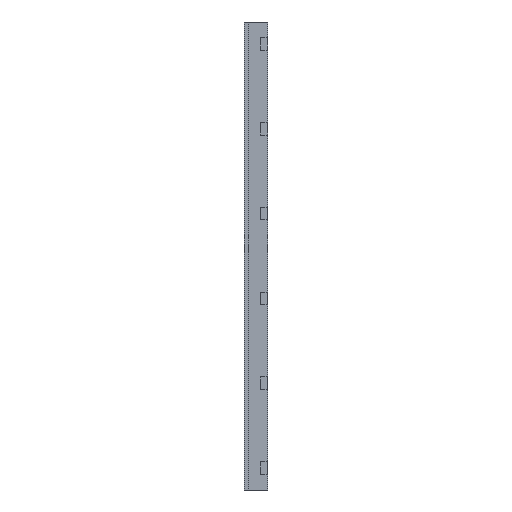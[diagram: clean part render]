
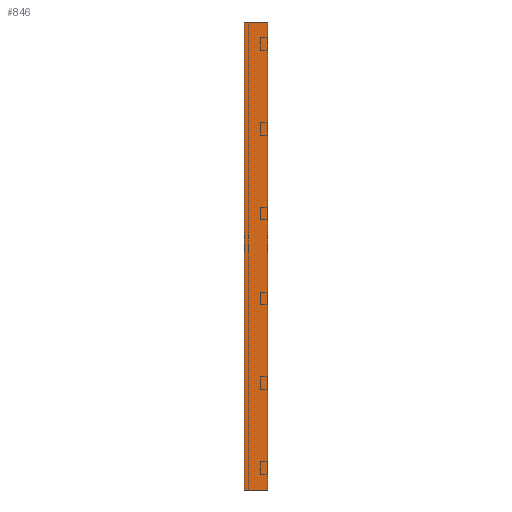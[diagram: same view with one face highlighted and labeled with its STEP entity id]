
A CAD part, left-side view. The second image highlights one B-rep face of the part: STEP entity #846.
In plain terms, the highlighted planar face has unit normal (-1, 0, 0).
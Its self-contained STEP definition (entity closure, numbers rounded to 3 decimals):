
#39 = ORIENTED_EDGE ( 'NONE', *, *, #810, .F. ) ;
#48 = EDGE_CURVE ( 'NONE', #146, #551, #490, .T. ) ;
#80 = EDGE_CURVE ( 'NONE', #1006, #1417, #756, .T. ) ;
#102 = FACE_OUTER_BOUND ( 'NONE', #987, .T. ) ;
#146 = VERTEX_POINT ( 'NONE', #814 ) ;
#165 = CARTESIAN_POINT ( 'NONE',  ( 0., 75., -1500. ) ) ;
#247 = DIRECTION ( 'NONE',  ( 0., -1., 0. ) ) ;
#257 = CARTESIAN_POINT ( 'NONE',  ( 0., 0., -1500. ) ) ;
#366 = VECTOR ( 'NONE', #247, 1000. ) ;
#390 = VECTOR ( 'NONE', #923, 1000. ) ;
#490 = LINE ( 'NONE', #505, #366 ) ;
#505 = CARTESIAN_POINT ( 'NONE',  ( 0., 0., 0. ) ) ;
#551 = VERTEX_POINT ( 'NONE', #998 ) ;
#614 = DIRECTION ( 'NONE',  ( -1., 0., 0. ) ) ;
#659 = LINE ( 'NONE', #257, #390 ) ;
#756 = LINE ( 'NONE', #906, #1374 ) ;
#757 = DIRECTION ( 'NONE',  ( 0., 0., 1. ) ) ;
#810 = EDGE_CURVE ( 'NONE', #1006, #146, #1398, .T. ) ;
#814 = CARTESIAN_POINT ( 'NONE',  ( 0., 75., 0. ) ) ;
#846 = ADVANCED_FACE ( 'NONE', ( #102 ), #1287, .T. ) ;
#874 = AXIS2_PLACEMENT_3D ( 'NONE', #1167, #614, #1160 ) ;
#906 = CARTESIAN_POINT ( 'NONE',  ( 0., 0., -1500. ) ) ;
#923 = DIRECTION ( 'NONE',  ( 0., 0., 1. ) ) ;
#932 = EDGE_CURVE ( 'NONE', #1417, #551, #659, .T. ) ;
#987 = EDGE_LOOP ( 'NONE', ( #1603, #39, #1072, #1051 ) ) ;
#998 = CARTESIAN_POINT ( 'NONE',  ( 0., 0., 0. ) ) ;
#1006 = VERTEX_POINT ( 'NONE', #165 ) ;
#1024 = DIRECTION ( 'NONE',  ( 0., -1., 0. ) ) ;
#1051 = ORIENTED_EDGE ( 'NONE', *, *, #932, .T. ) ;
#1072 = ORIENTED_EDGE ( 'NONE', *, *, #80, .T. ) ;
#1160 = DIRECTION ( 'NONE',  ( 0., 0., 1. ) ) ;
#1167 = CARTESIAN_POINT ( 'NONE',  ( 0., 0., -1500. ) ) ;
#1287 = PLANE ( 'NONE',  #874 ) ;
#1374 = VECTOR ( 'NONE', #1024, 1000. ) ;
#1398 = LINE ( 'NONE', #1547, #1607 ) ;
#1417 = VERTEX_POINT ( 'NONE', #1612 ) ;
#1547 = CARTESIAN_POINT ( 'NONE',  ( 0., 75., -1500. ) ) ;
#1603 = ORIENTED_EDGE ( 'NONE', *, *, #48, .F. ) ;
#1607 = VECTOR ( 'NONE', #757, 1000. ) ;
#1612 = CARTESIAN_POINT ( 'NONE',  ( 0., 0., -1500. ) ) ;
